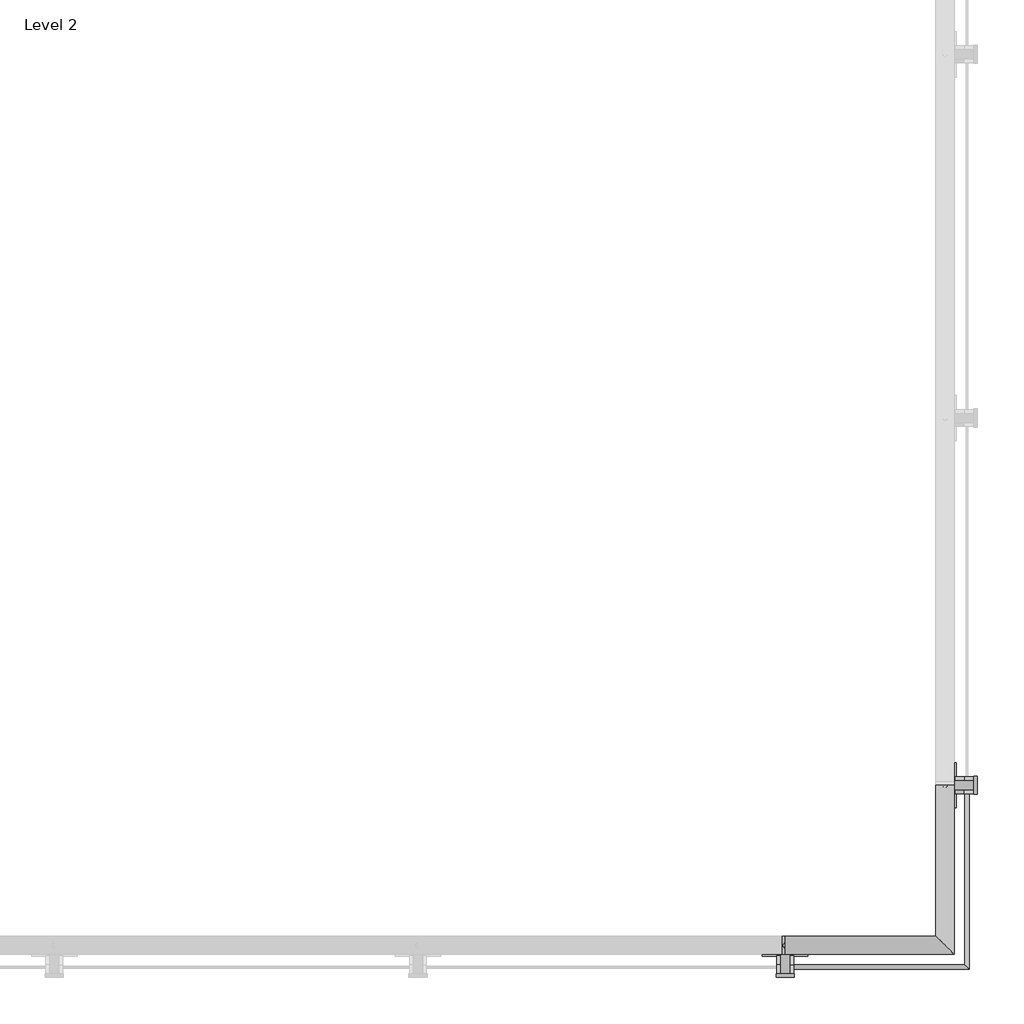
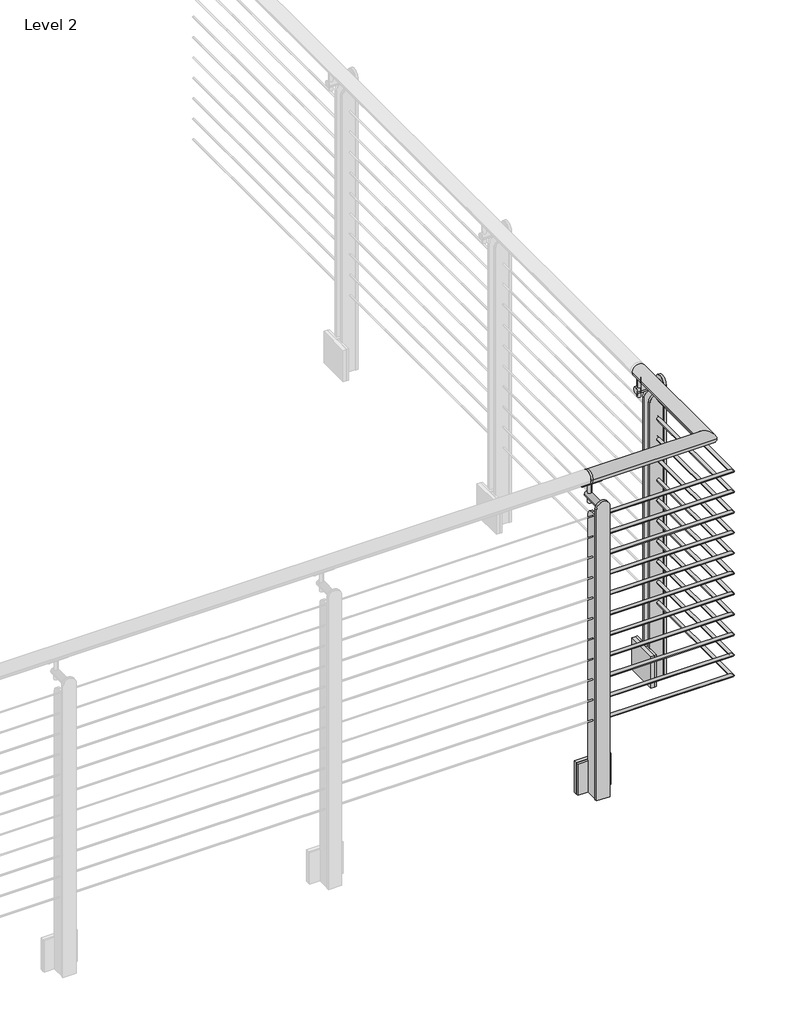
# One storey, part 3 of 12: 1 railing.
"""IFC4 building model written with IfcOpenShell, lengths in millimetres."""

from ifc_helpers import new_model, si_unit, point, frame, frame_2d, origin, place, context, project, spatial, polyline, circle_curve, ellipse_curve, trimmed, segment, composite_curve, outline, extrude, element, save
from ifc_brep_helpers import plane_surface, cylinder_surface, advanced_brep

model = new_model("IFC4")

# Units and contexts
model_context = context("Model", 3, world=origin())
ifc_project = project(units=[si_unit("LENGTHUNIT", "METRE", prefix="MILLI")], contexts=[model_context])

# Site, building, storey
site = spatial("IfcSite", under=ifc_project)
building = spatial("IfcBuilding", under=site)
storey = spatial("IfcBuildingStorey", under=building, Name="Level 2", Elevation=3048.0)

# Railing
placement = place(None, origin())
element("IfcRailing", 1, ObjectType="VIVA-TEE-Cable-Fascia Mount-Corner", at=placement, inside=storey, context=model_context, shape_type="SolidModel", body=[
    advanced_brep(
    [(-4171.9759195, -52208.8826165, 4102.1), (-4171.9759195, -52259.6826165, 4102.1), (-3699.5359195, -52259.6826165, 4102.1), (-3750.3359195, -52208.8826165, 4102.1), (-4181.705113, -52259.6826165, 4102.1), (-4181.705113, -52208.8826165, 4102.1), (-3699.5359195, -51787.2426165, 4102.1), (-3750.3359195, -51787.2426165, 4102.1)],
    [
        (0, 1, circle_curve(frame((-4171.9759195, -52234.2826165, 4102.1), z_axis=(1.0, 0.0, 0.0), x_axis=(0.0, 1.0, 0.0)), 25.4)),
        (1, 2),
        (2, 3, ellipse_curve(frame((-3724.9359195, -52234.2826165, 4102.1), z_axis=(-0.7071067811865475, -0.7071067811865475, 0.0), x_axis=(-0.7071067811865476, 0.7071067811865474, 0.0)), 35.9210245, 25.4)),
        (3, 0),
        (1, 0, circle_curve(frame((-4171.9759195, -52234.2826165, 4102.1), z_axis=(1.0, 0.0, 0.0), x_axis=(0.0, 1.0, 0.0)), 25.4)),
        (3, 2, ellipse_curve(frame((-3724.9359195, -52234.2826165, 4102.1), z_axis=(-0.7071067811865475, -0.7071067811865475, 0.0), x_axis=(-0.7071067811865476, 0.7071067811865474, 0.0)), 35.9210245, 25.4)),
        (4, 5, circle_curve(frame((-4181.705113, -52234.2826165, 4102.1), z_axis=(-1.0, 0.0, 0.0), x_axis=(0.0, 1.0, 0.0)), 25.4)),
        (5, 4, circle_curve(frame((-4181.705113, -52234.2826165, 4102.1), z_axis=(-1.0, 0.0, 0.0), x_axis=(0.0, 1.0, 0.0)), 25.4)),
        (4, 1),
        (0, 5),
        (6, 7, circle_curve(frame((-3724.9359195, -51787.2426165, 4102.1), z_axis=(0.0, 1.0, 0.0), x_axis=(-1.0, 0.0, 0.0)), 25.4)),
        (7, 6, circle_curve(frame((-3724.9359195, -51787.2426165, 4102.1), z_axis=(0.0, 1.0, 0.0), x_axis=(-1.0, 0.0, 0.0)), 25.4)),
        (2, 6),
        (7, 3),
    ],
    [
        cylinder_surface(frame((-4171.9759195, -52234.2826165, 4102.1), z_axis=(-1.0, 0.0, 0.0), x_axis=(0.0, 1.0, 0.0)), 25.4),
        plane_surface(frame((-4181.705113, -52234.2826165, 4127.5), z_axis=(-1.0, 0.0, 0.0), x_axis=(0.0, 1.0, 0.0))),
        cylinder_surface(frame((-4181.705113, -52234.2826165, 4102.1), z_axis=(-1.0, 0.0, 0.0), x_axis=(0.0, 1.0, 0.0)), 25.4),
        plane_surface(frame((-3724.9359195, -51787.2426165, 4127.5), z_axis=(0.0, 1.0, 0.0), x_axis=(0.0, 0.0, 1.0))),
        cylinder_surface(frame((-3724.9359195, -52234.2826165, 4102.1), z_axis=(0.0, -1.0, 0.0), x_axis=(-1.0, 0.0, 0.0)), 25.4),
    ],
    [
        (0, [[1, 2, 3, 4]]),
        (0, [[5, -4, 6, -2]]),
        (1, [[7, 8]]),
        (2, [[-7, 9, -1, 10]]),
        (2, [[-8, -10, -5, -9]]),
        (3, [[11, 12]]),
        (4, [[-3, 13, -12, 14]]),
        (4, [[-6, -14, -11, -13]]),
    ],
),
    advanced_brep(
    [(-4171.9759195, -52288.8926165, 3981.45), (-4171.9759195, -52301.5926165, 3981.45), (-3670.3259195, -52288.8926165, 3981.45), (-3657.6259195, -52301.5926165, 3981.45), (-3670.3259195, -51787.2426165, 3981.45), (-3657.6259195, -51787.2426165, 3981.45)],
    [
        (0, 1, circle_curve(frame((-4171.9759195, -52295.2426165, 3981.45), z_axis=(-1.0, 0.0, 0.0), x_axis=(0.0, -1.0, 0.0)), 6.35)),
        (1, 0, circle_curve(frame((-4171.9759195, -52295.2426165, 3981.45), z_axis=(-1.0, 0.0, 0.0), x_axis=(0.0, -1.0, 0.0)), 6.35)),
        (0, 2),
        (2, 3, ellipse_curve(frame((-3663.9759195, -52295.2426165, 3981.45), z_axis=(-0.7071067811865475, -0.7071067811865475, 0.0), x_axis=(-0.7071067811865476, 0.7071067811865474, 0.0)), 8.9802561, 6.35)),
        (3, 1),
        (3, 2, ellipse_curve(frame((-3663.9759195, -52295.2426165, 3981.45), z_axis=(-0.7071067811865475, -0.7071067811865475, 0.0), x_axis=(-0.7071067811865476, 0.7071067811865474, 0.0)), 8.9802561, 6.35)),
        (4, 5, circle_curve(frame((-3663.9759195, -51787.2426165, 3981.45), z_axis=(0.0, 1.0, 0.0), x_axis=(1.0, 0.0, 0.0)), 6.35)),
        (5, 4, circle_curve(frame((-3663.9759195, -51787.2426165, 3981.45), z_axis=(0.0, 1.0, 0.0), x_axis=(1.0, 0.0, 0.0)), 6.35)),
        (2, 4),
        (5, 3),
    ],
    [
        plane_surface(frame((-4171.9759195, -52295.2426165, 3987.8), z_axis=(-1.0, 0.0, 0.0), x_axis=(0.0, 1.0, 0.0))),
        cylinder_surface(frame((-4171.9759195, -52295.2426165, 3981.45), z_axis=(-1.0, 0.0, 0.0), x_axis=(0.0, -1.0, 0.0)), 6.35),
        plane_surface(frame((-3663.9759195, -51787.2426165, 3987.8), z_axis=(0.0, 1.0, 0.0), x_axis=(0.0, 0.0, 1.0))),
        cylinder_surface(frame((-3663.9759195, -52295.2426165, 3981.45), z_axis=(0.0, -1.0, 0.0), x_axis=(1.0, 0.0, 0.0)), 6.35),
    ],
    [
        (0, [[1, 2]]),
        (1, [[-1, 3, 4, 5]]),
        (1, [[-2, -5, 6, -3]]),
        (2, [[7, 8]]),
        (3, [[-4, 9, -8, 10]]),
        (3, [[-6, -10, -7, -9]]),
    ],
),
    advanced_brep(
    [(-4171.9759195, -52288.8926165, 3898.9), (-4171.9759195, -52301.5926165, 3898.9), (-3670.3259195, -52288.8926165, 3898.9), (-3657.6259195, -52301.5926165, 3898.9), (-3670.3259195, -51787.2426165, 3898.9), (-3657.6259195, -51787.2426165, 3898.9)],
    [
        (0, 1, circle_curve(frame((-4171.9759195, -52295.2426165, 3898.9), z_axis=(-1.0, 0.0, 0.0), x_axis=(0.0, -1.0, 0.0)), 6.35)),
        (1, 0, circle_curve(frame((-4171.9759195, -52295.2426165, 3898.9), z_axis=(-1.0, 0.0, 0.0), x_axis=(0.0, -1.0, 0.0)), 6.35)),
        (0, 2),
        (2, 3, ellipse_curve(frame((-3663.9759195, -52295.2426165, 3898.9), z_axis=(-0.7071067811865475, -0.7071067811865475, 0.0), x_axis=(-0.7071067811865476, 0.7071067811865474, 0.0)), 8.9802561, 6.35)),
        (3, 1),
        (3, 2, ellipse_curve(frame((-3663.9759195, -52295.2426165, 3898.9), z_axis=(-0.7071067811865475, -0.7071067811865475, 0.0), x_axis=(-0.7071067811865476, 0.7071067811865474, 0.0)), 8.9802561, 6.35)),
        (4, 5, circle_curve(frame((-3663.9759195, -51787.2426165, 3898.9), z_axis=(0.0, 1.0, 0.0), x_axis=(1.0, 0.0, 0.0)), 6.35)),
        (5, 4, circle_curve(frame((-3663.9759195, -51787.2426165, 3898.9), z_axis=(0.0, 1.0, 0.0), x_axis=(1.0, 0.0, 0.0)), 6.35)),
        (2, 4),
        (5, 3),
    ],
    [
        plane_surface(frame((-4171.9759195, -52295.2426165, 3905.25), z_axis=(-1.0, 0.0, 0.0), x_axis=(0.0, 1.0, 0.0))),
        cylinder_surface(frame((-4171.9759195, -52295.2426165, 3898.9), z_axis=(-1.0, 0.0, 0.0), x_axis=(0.0, -1.0, 0.0)), 6.35),
        plane_surface(frame((-3663.9759195, -51787.2426165, 3905.25), z_axis=(0.0, 1.0, 0.0), x_axis=(0.0, 0.0, 1.0))),
        cylinder_surface(frame((-3663.9759195, -52295.2426165, 3898.9), z_axis=(0.0, -1.0, 0.0), x_axis=(1.0, 0.0, 0.0)), 6.35),
    ],
    [
        (0, [[1, 2]]),
        (1, [[-1, 3, 4, 5]]),
        (1, [[-2, -5, 6, -3]]),
        (2, [[7, 8]]),
        (3, [[-4, 9, -8, 10]]),
        (3, [[-6, -10, -7, -9]]),
    ],
),
    advanced_brep(
    [(-4171.9759195, -52288.8926165, 3816.35), (-4171.9759195, -52301.5926165, 3816.35), (-3670.3259195, -52288.8926165, 3816.35), (-3657.6259195, -52301.5926165, 3816.35), (-3670.3259195, -51787.2426165, 3816.35), (-3657.6259195, -51787.2426165, 3816.35)],
    [
        (0, 1, circle_curve(frame((-4171.9759195, -52295.2426165, 3816.35), z_axis=(-1.0, 0.0, 0.0), x_axis=(0.0, -1.0, 0.0)), 6.35)),
        (1, 0, circle_curve(frame((-4171.9759195, -52295.2426165, 3816.35), z_axis=(-1.0, 0.0, 0.0), x_axis=(0.0, -1.0, 0.0)), 6.35)),
        (0, 2),
        (2, 3, ellipse_curve(frame((-3663.9759195, -52295.2426165, 3816.35), z_axis=(-0.7071067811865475, -0.7071067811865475, 0.0), x_axis=(-0.7071067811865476, 0.7071067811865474, 0.0)), 8.9802561, 6.35)),
        (3, 1),
        (3, 2, ellipse_curve(frame((-3663.9759195, -52295.2426165, 3816.35), z_axis=(-0.7071067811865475, -0.7071067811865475, 0.0), x_axis=(-0.7071067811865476, 0.7071067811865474, 0.0)), 8.9802561, 6.35)),
        (4, 5, circle_curve(frame((-3663.9759195, -51787.2426165, 3816.35), z_axis=(0.0, 1.0, 0.0), x_axis=(1.0, 0.0, 0.0)), 6.35)),
        (5, 4, circle_curve(frame((-3663.9759195, -51787.2426165, 3816.35), z_axis=(0.0, 1.0, 0.0), x_axis=(1.0, 0.0, 0.0)), 6.35)),
        (2, 4),
        (5, 3),
    ],
    [
        plane_surface(frame((-4171.9759195, -52295.2426165, 3822.7), z_axis=(-1.0, 0.0, 0.0), x_axis=(0.0, 1.0, 0.0))),
        cylinder_surface(frame((-4171.9759195, -52295.2426165, 3816.35), z_axis=(-1.0, 0.0, 0.0), x_axis=(0.0, -1.0, 0.0)), 6.35),
        plane_surface(frame((-3663.9759195, -51787.2426165, 3822.7), z_axis=(0.0, 1.0, 0.0), x_axis=(0.0, 0.0, 1.0))),
        cylinder_surface(frame((-3663.9759195, -52295.2426165, 3816.35), z_axis=(0.0, -1.0, 0.0), x_axis=(1.0, 0.0, 0.0)), 6.35),
    ],
    [
        (0, [[1, 2]]),
        (1, [[-1, 3, 4, 5]]),
        (1, [[-2, -5, 6, -3]]),
        (2, [[7, 8]]),
        (3, [[-4, 9, -8, 10]]),
        (3, [[-6, -10, -7, -9]]),
    ],
),
    advanced_brep(
    [(-4171.9759195, -52288.8926165, 3733.8), (-4171.9759195, -52301.5926165, 3733.8), (-3670.3259195, -52288.8926165, 3733.8), (-3657.6259195, -52301.5926165, 3733.8), (-3670.3259195, -51787.2426165, 3733.8), (-3657.6259195, -51787.2426165, 3733.8)],
    [
        (0, 1, circle_curve(frame((-4171.9759195, -52295.2426165, 3733.8), z_axis=(-1.0, 0.0, 0.0), x_axis=(0.0, -1.0, 0.0)), 6.35)),
        (1, 0, circle_curve(frame((-4171.9759195, -52295.2426165, 3733.8), z_axis=(-1.0, 0.0, 0.0), x_axis=(0.0, -1.0, 0.0)), 6.35)),
        (0, 2),
        (2, 3, ellipse_curve(frame((-3663.9759195, -52295.2426165, 3733.8), z_axis=(-0.7071067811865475, -0.7071067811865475, 0.0), x_axis=(-0.7071067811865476, 0.7071067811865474, 0.0)), 8.9802561, 6.35)),
        (3, 1),
        (3, 2, ellipse_curve(frame((-3663.9759195, -52295.2426165, 3733.8), z_axis=(-0.7071067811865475, -0.7071067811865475, 0.0), x_axis=(-0.7071067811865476, 0.7071067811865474, 0.0)), 8.9802561, 6.35)),
        (4, 5, circle_curve(frame((-3663.9759195, -51787.2426165, 3733.8), z_axis=(0.0, 1.0, 0.0), x_axis=(1.0, 0.0, 0.0)), 6.35)),
        (5, 4, circle_curve(frame((-3663.9759195, -51787.2426165, 3733.8), z_axis=(0.0, 1.0, 0.0), x_axis=(1.0, 0.0, 0.0)), 6.35)),
        (2, 4),
        (5, 3),
    ],
    [
        plane_surface(frame((-4171.9759195, -52295.2426165, 3740.15), z_axis=(-1.0, 0.0, 0.0), x_axis=(0.0, 1.0, 0.0))),
        cylinder_surface(frame((-4171.9759195, -52295.2426165, 3733.8), z_axis=(-1.0, 0.0, 0.0), x_axis=(0.0, -1.0, 0.0)), 6.35),
        plane_surface(frame((-3663.9759195, -51787.2426165, 3740.15), z_axis=(0.0, 1.0, 0.0), x_axis=(0.0, 0.0, 1.0))),
        cylinder_surface(frame((-3663.9759195, -52295.2426165, 3733.8), z_axis=(0.0, -1.0, 0.0), x_axis=(1.0, 0.0, 0.0)), 6.35),
    ],
    [
        (0, [[1, 2]]),
        (1, [[-1, 3, 4, 5]]),
        (1, [[-2, -5, 6, -3]]),
        (2, [[7, 8]]),
        (3, [[-4, 9, -8, 10]]),
        (3, [[-6, -10, -7, -9]]),
    ],
),
    advanced_brep(
    [(-4171.9759195, -52288.8926165, 3651.25), (-4171.9759195, -52301.5926165, 3651.25), (-3670.3259195, -52288.8926165, 3651.25), (-3657.6259195, -52301.5926165, 3651.25), (-3670.3259195, -51787.2426165, 3651.25), (-3657.6259195, -51787.2426165, 3651.25)],
    [
        (0, 1, circle_curve(frame((-4171.9759195, -52295.2426165, 3651.25), z_axis=(-1.0, 0.0, 0.0), x_axis=(0.0, -1.0, 0.0)), 6.35)),
        (1, 0, circle_curve(frame((-4171.9759195, -52295.2426165, 3651.25), z_axis=(-1.0, 0.0, 0.0), x_axis=(0.0, -1.0, 0.0)), 6.35)),
        (0, 2),
        (2, 3, ellipse_curve(frame((-3663.9759195, -52295.2426165, 3651.25), z_axis=(-0.7071067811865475, -0.7071067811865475, 0.0), x_axis=(-0.7071067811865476, 0.7071067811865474, 0.0)), 8.9802561, 6.35)),
        (3, 1),
        (3, 2, ellipse_curve(frame((-3663.9759195, -52295.2426165, 3651.25), z_axis=(-0.7071067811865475, -0.7071067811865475, 0.0), x_axis=(-0.7071067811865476, 0.7071067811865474, 0.0)), 8.9802561, 6.35)),
        (4, 5, circle_curve(frame((-3663.9759195, -51787.2426165, 3651.25), z_axis=(0.0, 1.0, 0.0), x_axis=(1.0, 0.0, 0.0)), 6.35)),
        (5, 4, circle_curve(frame((-3663.9759195, -51787.2426165, 3651.25), z_axis=(0.0, 1.0, 0.0), x_axis=(1.0, 0.0, 0.0)), 6.35)),
        (2, 4),
        (5, 3),
    ],
    [
        plane_surface(frame((-4171.9759195, -52295.2426165, 3657.6), z_axis=(-1.0, 0.0, 0.0), x_axis=(0.0, 1.0, 0.0))),
        cylinder_surface(frame((-4171.9759195, -52295.2426165, 3651.25), z_axis=(-1.0, 0.0, 0.0), x_axis=(0.0, -1.0, 0.0)), 6.35),
        plane_surface(frame((-3663.9759195, -51787.2426165, 3657.6), z_axis=(0.0, 1.0, 0.0), x_axis=(0.0, 0.0, 1.0))),
        cylinder_surface(frame((-3663.9759195, -52295.2426165, 3651.25), z_axis=(0.0, -1.0, 0.0), x_axis=(1.0, 0.0, 0.0)), 6.35),
    ],
    [
        (0, [[1, 2]]),
        (1, [[-1, 3, 4, 5]]),
        (1, [[-2, -5, 6, -3]]),
        (2, [[7, 8]]),
        (3, [[-4, 9, -8, 10]]),
        (3, [[-6, -10, -7, -9]]),
    ],
),
    advanced_brep(
    [(-4171.9759195, -52288.8926165, 3568.7), (-4171.9759195, -52301.5926165, 3568.7), (-3670.3259195, -52288.8926165, 3568.7), (-3657.6259195, -52301.5926165, 3568.7), (-3670.3259195, -51787.2426165, 3568.7), (-3657.6259195, -51787.2426165, 3568.7)],
    [
        (0, 1, circle_curve(frame((-4171.9759195, -52295.2426165, 3568.7), z_axis=(-1.0, 0.0, 0.0), x_axis=(0.0, -1.0, 0.0)), 6.35)),
        (1, 0, circle_curve(frame((-4171.9759195, -52295.2426165, 3568.7), z_axis=(-1.0, 0.0, 0.0), x_axis=(0.0, -1.0, 0.0)), 6.35)),
        (0, 2),
        (2, 3, ellipse_curve(frame((-3663.9759195, -52295.2426165, 3568.7), z_axis=(-0.7071067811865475, -0.7071067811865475, 0.0), x_axis=(-0.7071067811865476, 0.7071067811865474, 0.0)), 8.9802561, 6.35)),
        (3, 1),
        (3, 2, ellipse_curve(frame((-3663.9759195, -52295.2426165, 3568.7), z_axis=(-0.7071067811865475, -0.7071067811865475, 0.0), x_axis=(-0.7071067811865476, 0.7071067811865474, 0.0)), 8.9802561, 6.35)),
        (4, 5, circle_curve(frame((-3663.9759195, -51787.2426165, 3568.7), z_axis=(0.0, 1.0, 0.0), x_axis=(1.0, 0.0, 0.0)), 6.35)),
        (5, 4, circle_curve(frame((-3663.9759195, -51787.2426165, 3568.7), z_axis=(0.0, 1.0, 0.0), x_axis=(1.0, 0.0, 0.0)), 6.35)),
        (2, 4),
        (5, 3),
    ],
    [
        plane_surface(frame((-4171.9759195, -52295.2426165, 3575.05), z_axis=(-1.0, 0.0, 0.0), x_axis=(0.0, 1.0, 0.0))),
        cylinder_surface(frame((-4171.9759195, -52295.2426165, 3568.7), z_axis=(-1.0, 0.0, 0.0), x_axis=(0.0, -1.0, 0.0)), 6.35),
        plane_surface(frame((-3663.9759195, -51787.2426165, 3575.05), z_axis=(0.0, 1.0, 0.0), x_axis=(0.0, 0.0, 1.0))),
        cylinder_surface(frame((-3663.9759195, -52295.2426165, 3568.7), z_axis=(0.0, -1.0, 0.0), x_axis=(1.0, 0.0, 0.0)), 6.35),
    ],
    [
        (0, [[1, 2]]),
        (1, [[-1, 3, 4, 5]]),
        (1, [[-2, -5, 6, -3]]),
        (2, [[7, 8]]),
        (3, [[-4, 9, -8, 10]]),
        (3, [[-6, -10, -7, -9]]),
    ],
),
    advanced_brep(
    [(-4171.9759195, -52288.8926165, 3486.15), (-4171.9759195, -52301.5926165, 3486.15), (-3670.3259195, -52288.8926165, 3486.15), (-3657.6259195, -52301.5926165, 3486.15), (-3670.3259195, -51787.2426165, 3486.15), (-3657.6259195, -51787.2426165, 3486.15)],
    [
        (0, 1, circle_curve(frame((-4171.9759195, -52295.2426165, 3486.15), z_axis=(-1.0, 0.0, 0.0), x_axis=(0.0, -1.0, 0.0)), 6.35)),
        (1, 0, circle_curve(frame((-4171.9759195, -52295.2426165, 3486.15), z_axis=(-1.0, 0.0, 0.0), x_axis=(0.0, -1.0, 0.0)), 6.35)),
        (0, 2),
        (2, 3, ellipse_curve(frame((-3663.9759195, -52295.2426165, 3486.15), z_axis=(-0.7071067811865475, -0.7071067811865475, 0.0), x_axis=(-0.7071067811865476, 0.7071067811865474, 0.0)), 8.9802561, 6.35)),
        (3, 1),
        (3, 2, ellipse_curve(frame((-3663.9759195, -52295.2426165, 3486.15), z_axis=(-0.7071067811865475, -0.7071067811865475, 0.0), x_axis=(-0.7071067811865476, 0.7071067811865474, 0.0)), 8.9802561, 6.35)),
        (4, 5, circle_curve(frame((-3663.9759195, -51787.2426165, 3486.15), z_axis=(0.0, 1.0, 0.0), x_axis=(1.0, 0.0, 0.0)), 6.35)),
        (5, 4, circle_curve(frame((-3663.9759195, -51787.2426165, 3486.15), z_axis=(0.0, 1.0, 0.0), x_axis=(1.0, 0.0, 0.0)), 6.35)),
        (2, 4),
        (5, 3),
    ],
    [
        plane_surface(frame((-4171.9759195, -52295.2426165, 3492.5), z_axis=(-1.0, 0.0, 0.0), x_axis=(0.0, 1.0, 0.0))),
        cylinder_surface(frame((-4171.9759195, -52295.2426165, 3486.15), z_axis=(-1.0, 0.0, 0.0), x_axis=(0.0, -1.0, 0.0)), 6.35),
        plane_surface(frame((-3663.9759195, -51787.2426165, 3492.5), z_axis=(0.0, 1.0, 0.0), x_axis=(0.0, 0.0, 1.0))),
        cylinder_surface(frame((-3663.9759195, -52295.2426165, 3486.15), z_axis=(0.0, -1.0, 0.0), x_axis=(1.0, 0.0, 0.0)), 6.35),
    ],
    [
        (0, [[1, 2]]),
        (1, [[-1, 3, 4, 5]]),
        (1, [[-2, -5, 6, -3]]),
        (2, [[7, 8]]),
        (3, [[-4, 9, -8, 10]]),
        (3, [[-6, -10, -7, -9]]),
    ],
),
    advanced_brep(
    [(-4171.9759195, -52288.8926165, 3403.6), (-4171.9759195, -52301.5926165, 3403.6), (-3670.3259195, -52288.8926165, 3403.6), (-3657.6259195, -52301.5926165, 3403.6), (-3670.3259195, -51787.2426165, 3403.6), (-3657.6259195, -51787.2426165, 3403.6)],
    [
        (0, 1, circle_curve(frame((-4171.9759195, -52295.2426165, 3403.6), z_axis=(-1.0, 0.0, 0.0), x_axis=(0.0, -1.0, 0.0)), 6.35)),
        (1, 0, circle_curve(frame((-4171.9759195, -52295.2426165, 3403.6), z_axis=(-1.0, 0.0, 0.0), x_axis=(0.0, -1.0, 0.0)), 6.35)),
        (0, 2),
        (2, 3, ellipse_curve(frame((-3663.9759195, -52295.2426165, 3403.6), z_axis=(-0.7071067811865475, -0.7071067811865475, 0.0), x_axis=(-0.7071067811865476, 0.7071067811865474, 0.0)), 8.9802561, 6.35)),
        (3, 1),
        (3, 2, ellipse_curve(frame((-3663.9759195, -52295.2426165, 3403.6), z_axis=(-0.7071067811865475, -0.7071067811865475, 0.0), x_axis=(-0.7071067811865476, 0.7071067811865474, 0.0)), 8.9802561, 6.35)),
        (4, 5, circle_curve(frame((-3663.9759195, -51787.2426165, 3403.6), z_axis=(0.0, 1.0, 0.0), x_axis=(1.0, 0.0, 0.0)), 6.35)),
        (5, 4, circle_curve(frame((-3663.9759195, -51787.2426165, 3403.6), z_axis=(0.0, 1.0, 0.0), x_axis=(1.0, 0.0, 0.0)), 6.35)),
        (2, 4),
        (5, 3),
    ],
    [
        plane_surface(frame((-4171.9759195, -52295.2426165, 3409.95), z_axis=(-1.0, 0.0, 0.0), x_axis=(0.0, 1.0, 0.0))),
        cylinder_surface(frame((-4171.9759195, -52295.2426165, 3403.6), z_axis=(-1.0, 0.0, 0.0), x_axis=(0.0, -1.0, 0.0)), 6.35),
        plane_surface(frame((-3663.9759195, -51787.2426165, 3409.95), z_axis=(0.0, 1.0, 0.0), x_axis=(0.0, 0.0, 1.0))),
        cylinder_surface(frame((-3663.9759195, -52295.2426165, 3403.6), z_axis=(0.0, -1.0, 0.0), x_axis=(1.0, 0.0, 0.0)), 6.35),
    ],
    [
        (0, [[1, 2]]),
        (1, [[-1, 3, 4, 5]]),
        (1, [[-2, -5, 6, -3]]),
        (2, [[7, 8]]),
        (3, [[-4, 9, -8, 10]]),
        (3, [[-6, -10, -7, -9]]),
    ],
),
    advanced_brep(
    [(-4171.9759195, -52288.8926165, 3321.05), (-4171.9759195, -52301.5926165, 3321.05), (-3670.3259195, -52288.8926165, 3321.05), (-3657.6259195, -52301.5926165, 3321.05), (-3670.3259195, -51787.2426165, 3321.05), (-3657.6259195, -51787.2426165, 3321.05)],
    [
        (0, 1, circle_curve(frame((-4171.9759195, -52295.2426165, 3321.05), z_axis=(-1.0, 0.0, 0.0), x_axis=(0.0, -1.0, 0.0)), 6.35)),
        (1, 0, circle_curve(frame((-4171.9759195, -52295.2426165, 3321.05), z_axis=(-1.0, 0.0, 0.0), x_axis=(0.0, -1.0, 0.0)), 6.35)),
        (0, 2),
        (2, 3, ellipse_curve(frame((-3663.9759195, -52295.2426165, 3321.05), z_axis=(-0.7071067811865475, -0.7071067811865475, 0.0), x_axis=(-0.7071067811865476, 0.7071067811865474, 0.0)), 8.9802561, 6.35)),
        (3, 1),
        (3, 2, ellipse_curve(frame((-3663.9759195, -52295.2426165, 3321.05), z_axis=(-0.7071067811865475, -0.7071067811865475, 0.0), x_axis=(-0.7071067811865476, 0.7071067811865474, 0.0)), 8.9802561, 6.35)),
        (4, 5, circle_curve(frame((-3663.9759195, -51787.2426165, 3321.05), z_axis=(0.0, 1.0, 0.0), x_axis=(1.0, 0.0, 0.0)), 6.35)),
        (5, 4, circle_curve(frame((-3663.9759195, -51787.2426165, 3321.05), z_axis=(0.0, 1.0, 0.0), x_axis=(1.0, 0.0, 0.0)), 6.35)),
        (2, 4),
        (5, 3),
    ],
    [
        plane_surface(frame((-4171.9759195, -52295.2426165, 3327.4), z_axis=(-1.0, 0.0, 0.0), x_axis=(0.0, 1.0, 0.0))),
        cylinder_surface(frame((-4171.9759195, -52295.2426165, 3321.05), z_axis=(-1.0, 0.0, 0.0), x_axis=(0.0, -1.0, 0.0)), 6.35),
        plane_surface(frame((-3663.9759195, -51787.2426165, 3327.4), z_axis=(0.0, 1.0, 0.0), x_axis=(0.0, 0.0, 1.0))),
        cylinder_surface(frame((-3663.9759195, -52295.2426165, 3321.05), z_axis=(0.0, -1.0, 0.0), x_axis=(1.0, 0.0, 0.0)), 6.35),
    ],
    [
        (0, [[1, 2]]),
        (1, [[-1, 3, 4, 5]]),
        (1, [[-2, -5, 6, -3]]),
        (2, [[7, 8]]),
        (3, [[-4, 9, -8, 10]]),
        (3, [[-6, -10, -7, -9]]),
    ],
),
    advanced_brep(
    [(-4171.9759195, -52288.8926165, 3238.5), (-4171.9759195, -52301.5926165, 3238.5), (-3670.3259195, -52288.8926165, 3238.5), (-3657.6259195, -52301.5926165, 3238.5), (-3670.3259195, -51787.2426165, 3238.5), (-3657.6259195, -51787.2426165, 3238.5)],
    [
        (0, 1, circle_curve(frame((-4171.9759195, -52295.2426165, 3238.5), z_axis=(-1.0, 0.0, 0.0), x_axis=(0.0, -1.0, 0.0)), 6.35)),
        (1, 0, circle_curve(frame((-4171.9759195, -52295.2426165, 3238.5), z_axis=(-1.0, 0.0, 0.0), x_axis=(0.0, -1.0, 0.0)), 6.35)),
        (0, 2),
        (2, 3, ellipse_curve(frame((-3663.9759195, -52295.2426165, 3238.5), z_axis=(-0.7071067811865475, -0.7071067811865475, 0.0), x_axis=(-0.7071067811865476, 0.7071067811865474, 0.0)), 8.9802561, 6.35)),
        (3, 1),
        (3, 2, ellipse_curve(frame((-3663.9759195, -52295.2426165, 3238.5), z_axis=(-0.7071067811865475, -0.7071067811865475, 0.0), x_axis=(-0.7071067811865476, 0.7071067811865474, 0.0)), 8.9802561, 6.35)),
        (4, 5, circle_curve(frame((-3663.9759195, -51787.2426165, 3238.5), z_axis=(0.0, 1.0, 0.0), x_axis=(1.0, 0.0, 0.0)), 6.35)),
        (5, 4, circle_curve(frame((-3663.9759195, -51787.2426165, 3238.5), z_axis=(0.0, 1.0, 0.0), x_axis=(1.0, 0.0, 0.0)), 6.35)),
        (2, 4),
        (5, 3),
    ],
    [
        plane_surface(frame((-4171.9759195, -52295.2426165, 3244.85), z_axis=(-1.0, 0.0, 0.0), x_axis=(0.0, 1.0, 0.0))),
        cylinder_surface(frame((-4171.9759195, -52295.2426165, 3238.5), z_axis=(-1.0, 0.0, 0.0), x_axis=(0.0, -1.0, 0.0)), 6.35),
        plane_surface(frame((-3663.9759195, -51787.2426165, 3244.85), z_axis=(0.0, 1.0, 0.0), x_axis=(0.0, 0.0, 1.0))),
        cylinder_surface(frame((-3663.9759195, -52295.2426165, 3238.5), z_axis=(0.0, -1.0, 0.0), x_axis=(1.0, 0.0, 0.0)), 6.35),
    ],
    [
        (0, [[1, 2]]),
        (1, [[-1, 3, 4, 5]]),
        (1, [[-2, -5, 6, -3]]),
        (2, [[7, 8]]),
        (3, [[-4, 9, -8, 10]]),
        (3, [[-6, -10, -7, -9]]),
    ],
),
    advanced_brep(
    [(-4171.9759195, -52288.8926165, 3155.95), (-4171.9759195, -52301.5926165, 3155.95), (-3670.3259195, -52288.8926165, 3155.95), (-3657.6259195, -52301.5926165, 3155.95), (-3670.3259195, -51787.2426165, 3155.95), (-3657.6259195, -51787.2426165, 3155.95)],
    [
        (0, 1, circle_curve(frame((-4171.9759195, -52295.2426165, 3155.95), z_axis=(-1.0, 0.0, 0.0), x_axis=(0.0, -1.0, 0.0)), 6.35)),
        (1, 0, circle_curve(frame((-4171.9759195, -52295.2426165, 3155.95), z_axis=(-1.0, 0.0, 0.0), x_axis=(0.0, -1.0, 0.0)), 6.35)),
        (0, 2),
        (2, 3, ellipse_curve(frame((-3663.9759195, -52295.2426165, 3155.95), z_axis=(-0.7071067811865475, -0.7071067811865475, 0.0), x_axis=(-0.7071067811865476, 0.7071067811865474, 0.0)), 8.9802561, 6.35)),
        (3, 1),
        (3, 2, ellipse_curve(frame((-3663.9759195, -52295.2426165, 3155.95), z_axis=(-0.7071067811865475, -0.7071067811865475, 0.0), x_axis=(-0.7071067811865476, 0.7071067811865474, 0.0)), 8.9802561, 6.35)),
        (4, 5, circle_curve(frame((-3663.9759195, -51787.2426165, 3155.95), z_axis=(0.0, 1.0, 0.0), x_axis=(1.0, 0.0, 0.0)), 6.35)),
        (5, 4, circle_curve(frame((-3663.9759195, -51787.2426165, 3155.95), z_axis=(0.0, 1.0, 0.0), x_axis=(1.0, 0.0, 0.0)), 6.35)),
        (2, 4),
        (5, 3),
    ],
    [
        plane_surface(frame((-4171.9759195, -52295.2426165, 3162.3), z_axis=(-1.0, 0.0, 0.0), x_axis=(0.0, 1.0, 0.0))),
        cylinder_surface(frame((-4171.9759195, -52295.2426165, 3155.95), z_axis=(-1.0, 0.0, 0.0), x_axis=(0.0, -1.0, 0.0)), 6.35),
        plane_surface(frame((-3663.9759195, -51787.2426165, 3162.3), z_axis=(0.0, 1.0, 0.0), x_axis=(0.0, 0.0, 1.0))),
        cylinder_surface(frame((-3663.9759195, -52295.2426165, 3155.95), z_axis=(0.0, -1.0, 0.0), x_axis=(1.0, 0.0, 0.0)), 6.35),
    ],
    [
        (0, [[1, 2]]),
        (1, [[-1, 3, 4, 5]]),
        (1, [[-2, -5, 6, -3]]),
        (2, [[7, 8]]),
        (3, [[-4, 9, -8, 10]]),
        (3, [[-6, -10, -7, -9]]),
    ],
),
    extrude(outline(composite_curve([segment(trimmed(circle_curve(frame_2d((0.0, 7.0)), 7.0), [point((0.0, 14.0))], [point((0.0, 0.0))], False, "CARTESIAN"), True, "CONTINUOUS"), segment(trimmed(circle_curve(frame_2d((0.0, 7.0)), 7.0), [point((0.0, 0.0))], [point((0.0, 14.0))], False, "CARTESIAN"), True, "CONTINUOUS")], self_intersect=False)), frame((-3717.5910657, -51787.1689066, 3997.1832524), z_axis=(0.0, 0.004253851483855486, 0.9999909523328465), x_axis=(0.0, 0.9999909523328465, -0.004253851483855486)), (0.0, 0.0, 1.0), 75.97),
    extrude(outline(composite_curve([segment(trimmed(circle_curve(frame_2d((4095.2025651, -3724.7324697)), 19.05), [point((4081.7916463, -3711.2028815))], [point((4081.7916463, -3738.262058))], True, "CARTESIAN"), True, "CONTINUOUS"), segment(polyline([(4081.7916463, -3738.262058), (4080.7742593, -3739.2884476)]), True, "CONTINUOUS"), segment(trimmed(circle_curve(frame_2d((4079.7089374, -3738.2324697)), 1.5), [point((4080.7742593, -3739.2884476))], [point((4078.5780156, -3739.2178712))], False, "CARTESIAN"), True, "CONTINUOUS"), segment(trimmed(circle_curve(frame_2d((4095.2025651, -3724.7324697)), 22.05), [point((4078.5780156, -3739.2178712))], [point((4078.5780156, -3710.2470683))], False, "CARTESIAN"), True, "CONTINUOUS"), segment(trimmed(circle_curve(frame_2d((4079.7089374, -3711.2324697)), 1.5), [point((4078.5780156, -3710.2470683))], [point((4080.7742593, -3710.1764919))], False, "CARTESIAN"), True, "CONTINUOUS"), segment(polyline([(4080.7742593, -3710.1764919), (4081.7916463, -3711.2028815)]), True, "CONTINUOUS")], self_intersect=False)), frame((0.0, -51822.7073808, 0.0), z_axis=(0.0, 1.0, 0.0), x_axis=(0.0, 0.0, 1.0)), (0.0, 0.0, 1.0), 74.5229187),
    extrude(outline(composite_curve([segment(trimmed(circle_curve(frame_2d((-51786.9645762, 4024.1259188)), 12.5), [point((-51799.4645762, 4024.1259188))], [point((-51774.4645762, 4024.1259188))], False, "CARTESIAN"), True, "CONTINUOUS"), segment(trimmed(circle_curve(frame_2d((-51786.9645762, 4024.1259188)), 12.5), [point((-51774.4645762, 4024.1259188))], [point((-51799.4645762, 4024.1259188))], False, "CARTESIAN"), True, "CONTINUOUS")], self_intersect=False)), frame((-3737.2480798, 0.0, 0.0), z_axis=(1.0, 0.0, 0.0), x_axis=(0.0, 1.0, 0.0)), (0.0, 0.0, 1.0), 92.423),
    extrude(outline(polyline([(-3714.7759195, -51723.3457415), (-3701.8934679, -51723.3457415), (-3701.8934679, -51850.3457415), (-3714.7759195, -51850.3457415), (-3714.7759195, -51723.3457415)])), frame((0.0, 0.0, 2851.15), z_axis=(0.0, 0.0, 1.0), x_axis=(1.0, 0.0, 0.0)), (0.0, 0.0, 1.0), 127.0),
    extrude(outline(composite_curve([segment(trimmed(circle_curve(frame_2d((3972.2425, -3670.991371)), 24.765), [point((3997.0075, -3670.991371))], [point((3972.2425, -3695.756371))], False, "CARTESIAN"), True, "CONTINUOUS"), segment(polyline([(3972.2425, -3695.756371), (2851.15, -3695.756371), (2851.15, -3644.9259195), (3997.0075, -3644.9259195), (3997.0075, -3670.991371)]), True, "CONTINUOUS")], self_intersect=False)), frame((0.0, -51772.842242, 0.0), z_axis=(0.0, 1.0, 0.0), x_axis=(0.0, 0.0, 1.0)), (0.0, 0.0, 1.0), 9.525),
    extrude(outline(polyline([(-3701.8934679, -51782.0832415), (-3701.8934679, -51723.3457415), (-3693.9559679, -51723.3457415), (-3693.9559679, -51774.1457415), (-3644.9259195, -51774.1457415), (-3644.9259195, -51782.0832415), (-3701.8934679, -51782.0832415)])), frame((0.0, 0.0, 2851.15), z_axis=(0.0, 0.0, 1.0), x_axis=(1.0, 0.0, 0.0)), (0.0, 0.0, 1.0), 127.0),
    extrude(outline(polyline([(-3701.8934679, -51791.6082415), (-3644.9259195, -51791.6082415), (-3644.9259195, -51799.5457415), (-3693.9559679, -51799.5457415), (-3693.9559679, -51850.3457415), (-3701.8934679, -51850.3457415), (-3701.8934679, -51791.6082415)])), frame((0.0, 0.0, 2851.15), z_axis=(0.0, 0.0, 1.0), x_axis=(1.0, 0.0, 0.0)), (0.0, 0.0, 1.0), 127.0),
    extrude(outline(composite_curve([segment(polyline([(-51761.4457415, 2851.15), (-51812.2457415, 2851.15), (-51812.2457415, 4027.17)]), True, "CONTINUOUS"), segment(trimmed(circle_curve(frame_2d((-51786.8457415, 4027.17)), 25.4), [point((-51812.2457415, 4027.17))], [point((-51761.4457415, 4027.17))], False, "CARTESIAN"), True, "CONTINUOUS"), segment(polyline([(-51761.4457415, 4027.17), (-51761.4457415, 2851.15)]), True, "CONTINUOUS")], self_intersect=False)), frame((-3644.9259195, 0.0, 0.0), z_axis=(1.0, 0.0, 0.0), x_axis=(0.0, 1.0, 0.0)), (0.0, 0.0, 1.0), 9.525),
    extrude(outline(composite_curve([segment(trimmed(circle_curve(frame_2d((3972.2425, -3670.991371)), 24.765), [point((3997.0075, -3670.991371))], [point((3972.2425, -3695.756371))], False, "CARTESIAN"), True, "CONTINUOUS"), segment(polyline([(3972.2425, -3695.756371), (2851.15, -3695.756371), (2851.15, -3644.9259195), (3997.0075, -3644.9259195), (3997.0075, -3670.991371)]), True, "CONTINUOUS")], self_intersect=False)), frame((0.0, -51810.3742411, 0.0), z_axis=(0.0, 1.0, 0.0), x_axis=(0.0, 0.0, 1.0)), (0.0, 0.0, 1.0), 9.525),
    extrude(outline(composite_curve([segment(trimmed(circle_curve(frame_2d((0.0, 7.0)), 7.0), [point((0.0, 14.0))], [point((0.0, 0.0))], False, "CARTESIAN"), True, "CONTINUOUS"), segment(trimmed(circle_curve(frame_2d((0.0, 7.0)), 7.0), [point((0.0, 0.0))], [point((0.0, 14.0))], False, "CARTESIAN"), True, "CONTINUOUS")], self_intersect=False)), frame((-4171.9022096, -52241.6274703, 3997.1832524), z_axis=(0.004253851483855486, 0.0, 0.9999909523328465), x_axis=(0.9999909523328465, 0.0, -0.004253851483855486)), (0.0, 0.0, 1.0), 75.97),
    extrude(outline(composite_curve([segment(trimmed(circle_curve(frame_2d((-52234.4860663, 4095.2025651)), 19.05), [point((-52248.0156545, 4081.7916463))], [point((-52220.9564781, 4081.7916463))], True, "CARTESIAN"), True, "CONTINUOUS"), segment(polyline([(-52220.9564781, 4081.7916463), (-52219.9300885, 4080.7742593)]), True, "CONTINUOUS"), segment(trimmed(circle_curve(frame_2d((-52220.9860663, 4079.7089374)), 1.5), [point((-52219.9300885, 4080.7742593))], [point((-52220.0006648, 4078.5780156))], False, "CARTESIAN"), True, "CONTINUOUS"), segment(trimmed(circle_curve(frame_2d((-52234.4860663, 4095.2025651)), 22.05), [point((-52220.0006648, 4078.5780156))], [point((-52248.9714678, 4078.5780156))], False, "CARTESIAN"), True, "CONTINUOUS"), segment(trimmed(circle_curve(frame_2d((-52247.9860663, 4079.7089374)), 1.5), [point((-52248.9714678, 4078.5780156))], [point((-52249.0420442, 4080.7742593))], False, "CARTESIAN"), True, "CONTINUOUS"), segment(polyline([(-52249.0420442, 4080.7742593), (-52248.0156545, 4081.7916463)]), True, "CONTINUOUS")], self_intersect=False)), frame((-4207.4406838, 0.0, 0.0), z_axis=(1.0, 0.0, 0.0), x_axis=(0.0, 1.0, 0.0)), (0.0, 0.0, 1.0), 74.5229187),
    extrude(outline(composite_curve([segment(trimmed(circle_curve(frame_2d((4024.1259188, -4171.6978791)), 12.5), [point((4024.1259188, -4184.1978791))], [point((4024.1259188, -4159.1978791))], False, "CARTESIAN"), True, "CONTINUOUS"), segment(trimmed(circle_curve(frame_2d((4024.1259188, -4171.6978791)), 12.5), [point((4024.1259188, -4159.1978791))], [point((4024.1259188, -4184.1978791))], False, "CARTESIAN"), True, "CONTINUOUS")], self_intersect=False)), frame((0.0, -52314.3934563, 0.0), z_axis=(0.0, 1.0, 0.0), x_axis=(0.0, 0.0, 1.0)), (0.0, 0.0, 1.0), 92.423),
    extrude(outline(polyline([(-4108.0790445, -52244.4426165), (-4108.0790445, -52257.3250681), (-4235.0790445, -52257.3250681), (-4235.0790445, -52244.4426165), (-4108.0790445, -52244.4426165)])), frame((0.0, 0.0, 2851.15), z_axis=(0.0, 0.0, 1.0), x_axis=(1.0, 0.0, 0.0)), (0.0, 0.0, 1.0), 127.0),
    extrude(outline(composite_curve([segment(trimmed(circle_curve(frame_2d((-52288.227165, 3972.2425)), 24.765), [point((-52288.227165, 3997.0075))], [point((-52263.462165, 3972.2425))], False, "CARTESIAN"), True, "CONTINUOUS"), segment(polyline([(-52263.462165, 3972.2425), (-52263.462165, 2851.15), (-52314.2926165, 2851.15), (-52314.2926165, 3997.0075), (-52288.227165, 3997.0075)]), True, "CONTINUOUS")], self_intersect=False)), frame((-4157.5755449, 0.0, 0.0), z_axis=(1.0, 0.0, 0.0), x_axis=(0.0, 1.0, 0.0)), (0.0, 0.0, 1.0), 9.525),
    extrude(outline(polyline([(-4166.8165445, -52257.3250681), (-4108.0790445, -52257.3250681), (-4108.0790445, -52265.2625681), (-4158.8790445, -52265.2625681), (-4158.8790445, -52314.2926165), (-4166.8165445, -52314.2926165), (-4166.8165445, -52257.3250681)])), frame((0.0, 0.0, 2851.15), z_axis=(0.0, 0.0, 1.0), x_axis=(1.0, 0.0, 0.0)), (0.0, 0.0, 1.0), 127.0),
    extrude(outline(polyline([(-4176.3415445, -52257.3250681), (-4176.3415445, -52314.2926165), (-4184.2790445, -52314.2926165), (-4184.2790445, -52265.2625681), (-4235.0790445, -52265.2625681), (-4235.0790445, -52257.3250681), (-4176.3415445, -52257.3250681)])), frame((0.0, 0.0, 2851.15), z_axis=(0.0, 0.0, 1.0), x_axis=(1.0, 0.0, 0.0)), (0.0, 0.0, 1.0), 127.0),
    extrude(outline(composite_curve([segment(polyline([(2851.15, -4146.1790445), (4027.17, -4146.1790445)]), True, "CONTINUOUS"), segment(trimmed(circle_curve(frame_2d((4027.17, -4171.5790445)), 25.4), [point((4027.17, -4146.1790445))], [point((4027.17, -4196.9790445))], False, "CARTESIAN"), True, "CONTINUOUS"), segment(polyline([(4027.17, -4196.9790445), (2851.15, -4196.9790445), (2851.15, -4146.1790445)]), True, "CONTINUOUS")], self_intersect=False)), frame((0.0, -52323.8176165, 0.0), z_axis=(0.0, 1.0, 0.0), x_axis=(0.0, 0.0, 1.0)), (0.0, 0.0, 1.0), 9.525),
    extrude(outline(composite_curve([segment(trimmed(circle_curve(frame_2d((-52288.227165, 3972.2425)), 24.765), [point((-52288.227165, 3997.0075))], [point((-52263.462165, 3972.2425))], False, "CARTESIAN"), True, "CONTINUOUS"), segment(polyline([(-52263.462165, 3972.2425), (-52263.462165, 2851.15), (-52314.2926165, 2851.15), (-52314.2926165, 3997.0075), (-52288.227165, 3997.0075)]), True, "CONTINUOUS")], self_intersect=False)), frame((-4195.1075441, 0.0, 0.0), z_axis=(1.0, 0.0, 0.0), x_axis=(0.0, 1.0, 0.0)), (0.0, 0.0, 1.0), 9.525),
])

save(model, "model.ifc")
